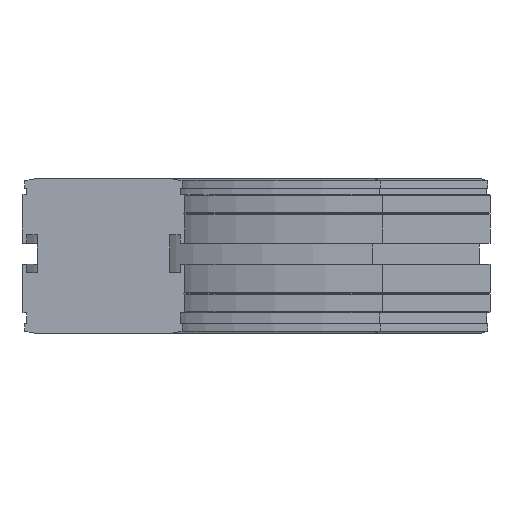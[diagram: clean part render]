
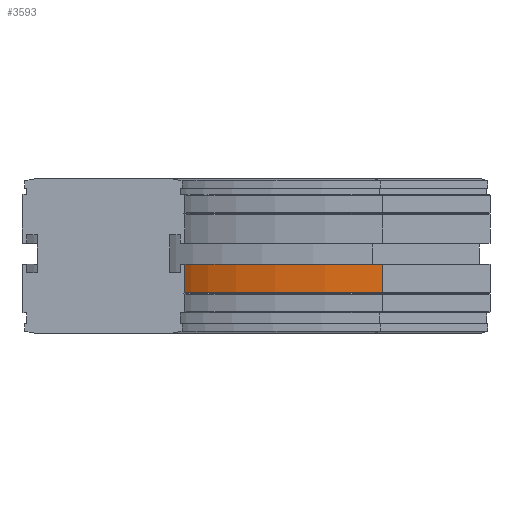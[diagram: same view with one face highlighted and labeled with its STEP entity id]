
A CAD part, left-side view. The second image highlights one B-rep face of the part: STEP entity #3593.
In plain terms, the highlighted cylindrical face has radius 357 mm (diameter 714 mm), a partial arc.
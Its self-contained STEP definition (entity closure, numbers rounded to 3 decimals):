
#2261=CARTESIAN_POINT('',(332.437,-147.563,-60.));
#2262=VERTEX_POINT('',#2261);
#2292=CARTESIAN_POINT('',(332.437,-147.563,-45.));
#2293=VERTEX_POINT('',#2292);
#2300=CARTESIAN_POINT('',(332.437,-147.563,-60.));
#2301=DIRECTION('',(0.0,0.0,1.0));
#2302=VECTOR('',#2301,15.0);
#2303=LINE('',#2300,#2302);
#2304=EDGE_CURVE('',#2262,#2293,#2303,.T.);
#3550=CARTESIAN_POINT('',(80.0,-43.0,-60.));
#3551=VERTEX_POINT('',#3550);
#3552=CARTESIAN_POINT('',(80.0,-400.0,-60.));
#3553=DIRECTION('',(0.0,0.0,-1.0));
#3554=DIRECTION('',(-0.707,-0.707,0.0));
#3555=AXIS2_PLACEMENT_3D('',#3552,#3553,#3554);
#3556=CIRCLE('',#3555,357.0);
#3557=EDGE_CURVE('',#3551,#2262,#3556,.T.);
#3569=CARTESIAN_POINT('',(80.0,-400.0,-52.5));
#3570=DIRECTION('',(0.0,0.0,-1.0));
#3571=DIRECTION('',(-0.707,-0.707,0.0));
#3572=AXIS2_PLACEMENT_3D('',#3569,#3570,#3571);
#3573=CYLINDRICAL_SURFACE('',#3572,357.0);
#3574=ORIENTED_EDGE('',*,*,#2304,.T.);
#3575=CARTESIAN_POINT('',(80.0,-43.0,-45.));
#3576=VERTEX_POINT('',#3575);
#3577=CARTESIAN_POINT('',(80.0,-400.0,-45.));
#3578=DIRECTION('',(0.0,0.0,-1.0));
#3579=DIRECTION('',(-0.707,-0.707,0.0));
#3580=AXIS2_PLACEMENT_3D('',#3577,#3578,#3579);
#3581=CIRCLE('',#3580,357.0);
#3582=EDGE_CURVE('',#3576,#2293,#3581,.T.);
#3583=ORIENTED_EDGE('',*,*,#3582,.F.);
#3584=CARTESIAN_POINT('',(80.0,-43.0,-60.));
#3585=DIRECTION('',(0.0,0.0,1.0));
#3586=VECTOR('',#3585,15.0);
#3587=LINE('',#3584,#3586);
#3588=EDGE_CURVE('',#3551,#3576,#3587,.T.);
#3589=ORIENTED_EDGE('',*,*,#3588,.F.);
#3590=ORIENTED_EDGE('',*,*,#3557,.T.);
#3591=EDGE_LOOP('',(#3574,#3583,#3589,#3590));
#3592=FACE_OUTER_BOUND('',#3591,.T.);
#3593=ADVANCED_FACE('',(#3592),#3573,.F.);
